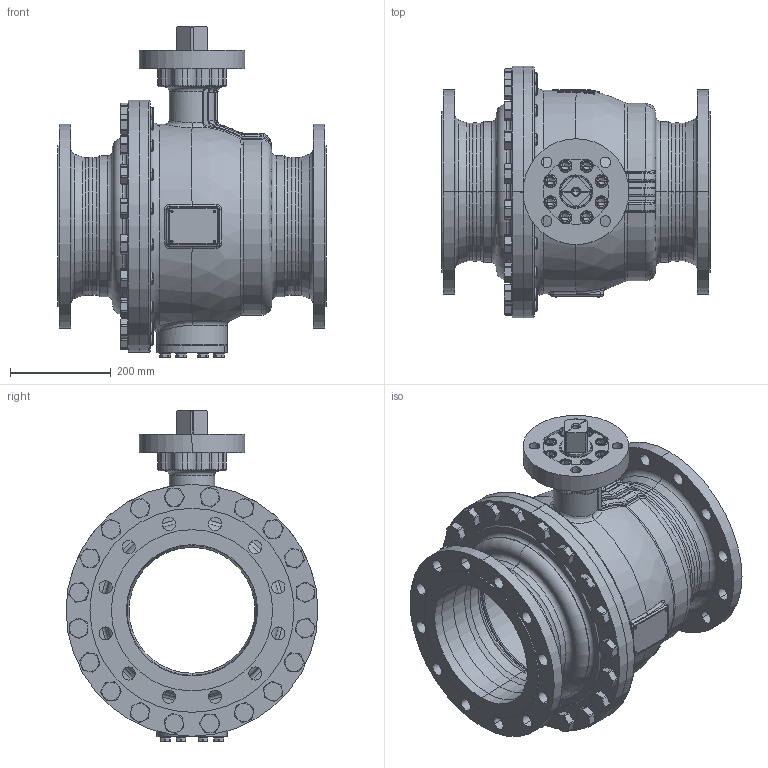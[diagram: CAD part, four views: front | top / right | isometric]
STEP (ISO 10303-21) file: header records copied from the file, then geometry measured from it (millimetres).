
FILE_DESCRIPTION((''),'2;1');
FILE_NAME('KHI-F_250_PN016-F16-4_SW0001','2026-02-05T13:52:50',('fischerkl'),('KLINGER'),'CREO PARAMETRIC BY PTC INC, 2023014','CREO PARAMETRIC BY PTC INC, 2023014','');
FILE_SCHEMA(('CONFIG_CONTROL_DESIGN'));
Products named in the file (1): KHI-F_250_PN016-F16-4_SW0001
Bounding box: 533 x 500 x 657.8 mm (x, y, z)
Volume: 22058433.8 mm3; surface area: 3402493.3 mm2
Topology: 1 solids, 4 shells, 3391 faces, 8645 edges, 5394 vertices
Faces by surface type: plane 1726, cylinder 804, cone 414, torus 308, bspline 97, sphere 42
Entity records: 139482 total; most frequent: CARTESIAN_POINT 58435, ORIENTED_EDGE 17214, DIRECTION 16698, EDGE_CURVE 8607, AXIS2_PLACEMENT_3D 6338, VERTEX_POINT 5394, VECTOR 4022, LINE 4022
